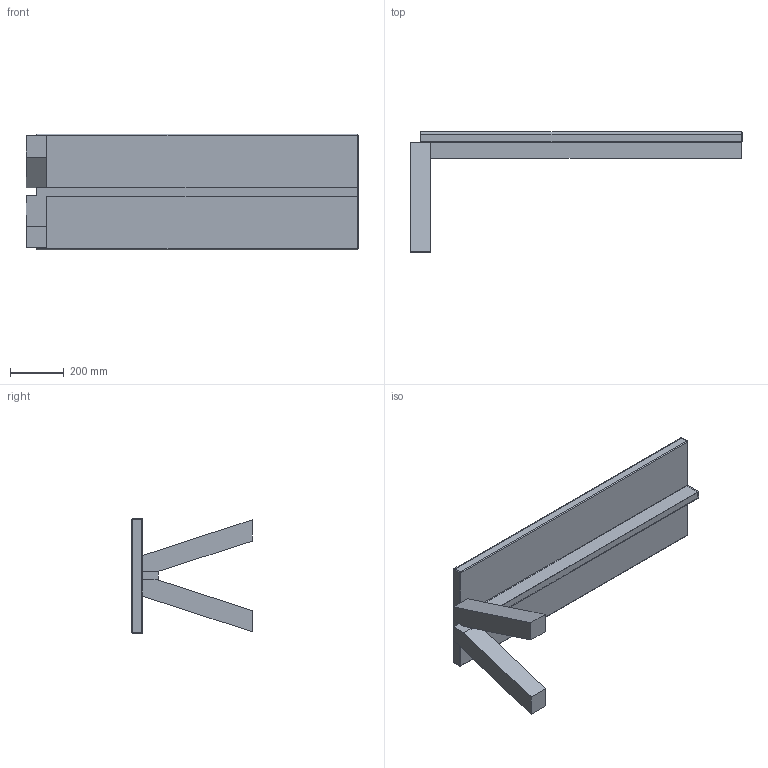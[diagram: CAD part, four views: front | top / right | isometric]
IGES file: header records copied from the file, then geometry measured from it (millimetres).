
Start section: SolidWorks IGES file using NURBS representation for surfaces
Global section: file name: W:\01-VICCARBE\PRODUCTOS\45-TRESTLE\04-MODELADOS (PLANOS)\WEB\IGES\viccarbe_trestle_central_seat.IGS; native system: SolidWorks 2013; preprocessor: SolidWorks 2013; author: Usuario; date: 140917.173941; units: millimetre
Bounding box: 1237.5 x 450 x 430 mm (x, y, z)
Surface area: 1840045.4 mm2 (no closed solid volume)
Topology: 0 solids, 0 shells, 52 faces, 216 edges, 212 vertices
Faces by surface type: bspline 52
